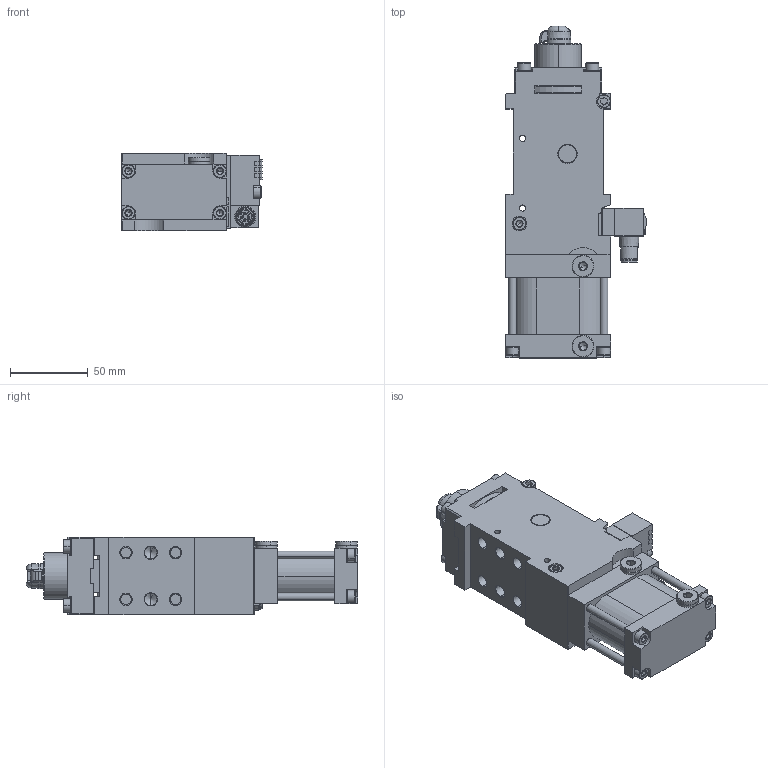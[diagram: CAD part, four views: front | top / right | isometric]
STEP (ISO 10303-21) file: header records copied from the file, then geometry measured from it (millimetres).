
FILE_DESCRIPTION (( 'STEP AP203' ), '1' );
FILE_NAME ('dca40gi-A200514nt3_02.STEP', '2020-06-04T07:09:51', ( '' ), ( '' ), 'SwSTEP 2.0', 'SolidWorks 2019', '' );
FILE_SCHEMA (( 'CONFIG_CONTROL_DESIGN' ));
Products named in the file (1): dca40gi-A200514nt3_02
Bounding box: 90.96 x 214.15 x 50.02 mm (x, y, z)
Volume: 472929 mm3; surface area: 114716.2 mm2
Topology: 27 solids, 38 shells, 2063 faces, 6134 edges, 3866 vertices
Faces by surface type: plane 1009, cylinder 507, cone 386, torus 159, bspline 2
Entity records: 71461 total; most frequent: CARTESIAN_POINT 16229, ORIENTED_EDGE 12148, DIRECTION 11332, EDGE_CURVE 6074, AXIS2_PLACEMENT_3D 4319, VERTEX_POINT 3866, VECTOR 2694, LINE 2694
